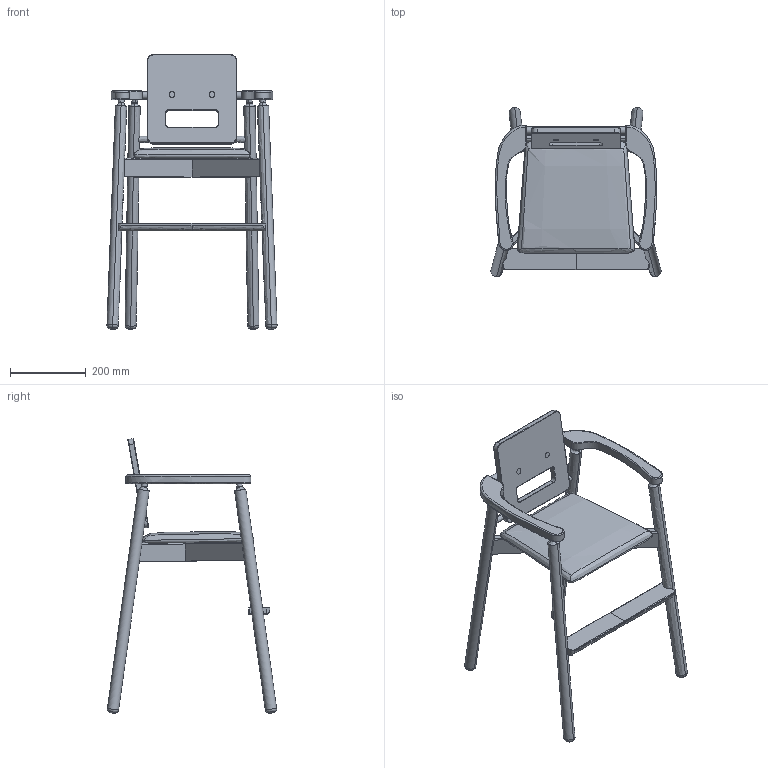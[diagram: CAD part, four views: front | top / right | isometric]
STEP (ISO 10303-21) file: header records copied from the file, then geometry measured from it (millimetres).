
FILE_DESCRIPTION(/* description */ (''),/* implementation_level */ '2;1');
FILE_NAME(/* name */ 'kinoshita_baobabaland_k032',/* time_stamp */ '2025-03-01T23:51:04+09:00',/* author */ (''),/* organization */ (''),/* preprocessor_version */ 'ST-DEVELOPER v16.5',/* originating_system */ '',/* authorisation */ '');
FILE_SCHEMA (('AUTOMOTIVE_DESIGN'));
Length unit declared in the file: millimetre
Products named in the file (1): Document
Bounding box: 449.51 x 447.5 x 725.83 mm (x, y, z)
Volume: 2979834.9 mm3; surface area: 807854 mm2
Topology: 4 solids, 5 shells, 243 faces, 564 edges, 315 vertices
Faces by surface type: bspline 193, plane 50
Entity records: 14626 total; most frequent: CARTESIAN_POINT 11391, ORIENTED_EDGE 1081, EDGE_CURVE 542, VERTEX_POINT 315, B_SPLINE_CURVE_WITH_KNOTS 291, EDGE_LOOP 263, ADVANCED_FACE 243, FACE_OUTER_BOUND 243
